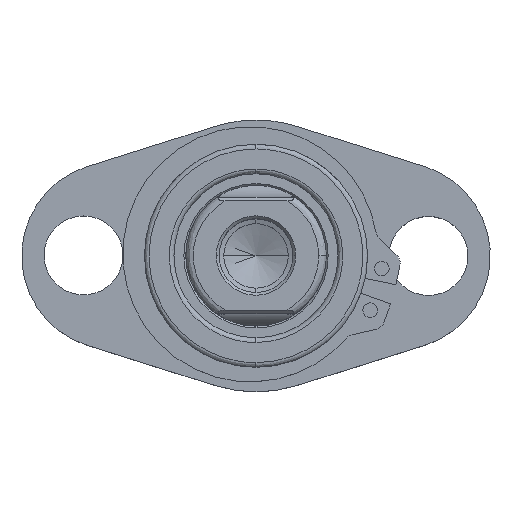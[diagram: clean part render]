
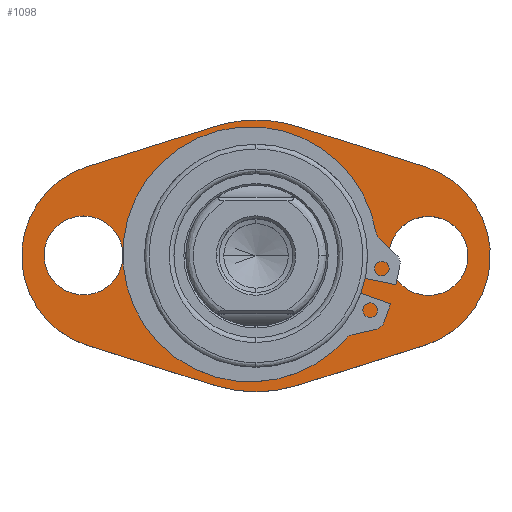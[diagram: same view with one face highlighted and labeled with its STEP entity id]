
A CAD part, top view. The second image highlights one B-rep face of the part: STEP entity #1098.
In plain terms, the highlighted planar face has unit normal (0, 0, 1) as drawn and (0, 1, 0) by its records, which use the part's own axes.
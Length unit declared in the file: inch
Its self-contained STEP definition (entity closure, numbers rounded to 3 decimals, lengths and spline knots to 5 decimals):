
#17 = LINE ( 'NONE', #3147, #4016 ) ;
#185 = CIRCLE ( 'NONE', #3400, 0.5 ) ;
#198 = EDGE_CURVE ( 'NONE', #4698, #1534, #17, .T. ) ;
#205 = AXIS2_PLACEMENT_3D ( 'NONE', #2308, #551, #3860 ) ;
#248 = DIRECTION ( 'NONE',  ( 0., -1., 0. ) ) ;
#290 = DIRECTION ( 'NONE',  ( 0., 0., -1. ) ) ;
#491 = FACE_BOUND ( 'NONE', #2268, .T. ) ;
#504 = DIRECTION ( 'NONE',  ( 0., 0., -1. ) ) ;
#531 = ORIENTED_EDGE ( 'NONE', *, *, #2525, .F. ) ;
#551 = DIRECTION ( 'NONE',  ( 0., -1., 0. ) ) ;
#596 = ORIENTED_EDGE ( 'NONE', *, *, #4167, .T. ) ;
#604 = CARTESIAN_POINT ( 'NONE',  ( 0.92, 0.25, 0.2105 ) ) ;
#608 = EDGE_CURVE ( 'NONE', #2133, #3963, #4390, .T. ) ;
#614 = DIRECTION ( 'NONE',  ( 0., 0., -1. ) ) ;
#627 = ORIENTED_EDGE ( 'NONE', *, *, #198, .T. ) ;
#632 = ORIENTED_EDGE ( 'NONE', *, *, #4266, .T. ) ;
#722 = CARTESIAN_POINT ( 'NONE',  ( -0.9, 0.25, 0.47697 ) ) ;
#771 = FACE_BOUND ( 'NONE', #2446, .T. ) ;
#788 = ORIENTED_EDGE ( 'NONE', *, *, #2374, .T. ) ;
#795 = CIRCLE ( 'NONE', #989, 0.2105 ) ;
#843 = AXIS2_PLACEMENT_3D ( 'NONE', #4478, #1917, #2291 ) ;
#989 = AXIS2_PLACEMENT_3D ( 'NONE', #4601, #2384, #3125 ) ;
#1022 = CARTESIAN_POINT ( 'NONE',  ( -0.75, 0.25, 0. ) ) ;
#1043 = PLANE ( 'NONE',  #1153 ) ;
#1098 = ADVANCED_FACE ( 'NONE', ( #771, #3665, #491, #2575 ), #1043, .F. ) ;
#1150 = CARTESIAN_POINT ( 'NONE',  ( -0.92, 0.25, 0.20747 ) ) ;
#1153 = AXIS2_PLACEMENT_3D ( 'NONE', #4015, #2548, #2856 ) ;
#1158 = CARTESIAN_POINT ( 'NONE',  ( 0., 0.25, 0. ) ) ;
#1190 = CARTESIAN_POINT ( 'NONE',  ( 0., 0.25, -0.725 ) ) ;
#1194 = EDGE_CURVE ( 'NONE', #4161, #2779, #1378, .T. ) ;
#1196 = DIRECTION ( 'NONE',  ( 0., 0., -1. ) ) ;
#1202 = EDGE_LOOP ( 'NONE', ( #1692, #1894, #2985, #627, #531, #2878, #1739, #596, #1617 ) ) ;
#1226 = DIRECTION ( 'NONE',  ( 0., -1., 0. ) ) ;
#1251 = EDGE_CURVE ( 'NONE', #3106, #2779, #1600, .T. ) ;
#1267 = DIRECTION ( 'NONE',  ( 0., 0., -1. ) ) ;
#1343 = VERTEX_POINT ( 'NONE', #2596 ) ;
#1378 = LINE ( 'NONE', #1780, #4707 ) ;
#1407 = CIRCLE ( 'NONE', #4258, 0.725 ) ;
#1489 = DIRECTION ( 'NONE',  ( 0., -1., 0. ) ) ;
#1534 = VERTEX_POINT ( 'NONE', #2006 ) ;
#1545 = DIRECTION ( 'NONE',  ( 0., -1., 0. ) ) ;
#1578 = DIRECTION ( 'NONE',  ( 0., -1., 0. ) ) ;
#1584 = DIRECTION ( 'NONE',  ( 0.954, 0., 0.3 ) ) ;
#1599 = CARTESIAN_POINT ( 'NONE',  ( 0.92, 0.25, -0.2105 ) ) ;
#1600 = CIRCLE ( 'NONE', #2604, 0.725 ) ;
#1607 = CARTESIAN_POINT ( 'NONE',  ( -0.2175, 0.25, -0.69161 ) ) ;
#1617 = ORIENTED_EDGE ( 'NONE', *, *, #4150, .F. ) ;
#1692 = ORIENTED_EDGE ( 'NONE', *, *, #1194, .T. ) ;
#1739 = ORIENTED_EDGE ( 'NONE', *, *, #4094, .F. ) ;
#1770 = AXIS2_PLACEMENT_3D ( 'NONE', #2284, #1545, #1196 ) ;
#1780 = CARTESIAN_POINT ( 'NONE',  ( 0.9, 0.25, -0.47697 ) ) ;
#1809 = EDGE_CURVE ( 'NONE', #4645, #4297, #2633, .T. ) ;
#1886 = CARTESIAN_POINT ( 'NONE',  ( 0.9, 0.25, 0.47697 ) ) ;
#1894 = ORIENTED_EDGE ( 'NONE', *, *, #1251, .F. ) ;
#1907 = DIRECTION ( 'NONE',  ( 0., 0., -1. ) ) ;
#1917 = DIRECTION ( 'NONE',  ( 0., -1., 0. ) ) ;
#1988 = DIRECTION ( 'NONE',  ( 0., 1., 0. ) ) ;
#2006 = CARTESIAN_POINT ( 'NONE',  ( -0.9, 0.25, -0.47697 ) ) ;
#2133 = VERTEX_POINT ( 'NONE', #3715 ) ;
#2151 = ORIENTED_EDGE ( 'NONE', *, *, #1809, .T. ) ;
#2160 = ORIENTED_EDGE ( 'NONE', *, *, #608, .F. ) ;
#2190 = CIRCLE ( 'NONE', #1770, 0.5 ) ;
#2224 = EDGE_CURVE ( 'NONE', #3175, #3768, #3658, .T. ) ;
#2253 = DIRECTION ( 'NONE',  ( 0., 1., 0. ) ) ;
#2268 = EDGE_LOOP ( 'NONE', ( #2151, #632 ) ) ;
#2269 = VERTEX_POINT ( 'NONE', #1886 ) ;
#2284 = CARTESIAN_POINT ( 'NONE',  ( 0.75, 0.25, 0. ) ) ;
#2291 = DIRECTION ( 'NONE',  ( 0., 0., 1. ) ) ;
#2308 = CARTESIAN_POINT ( 'NONE',  ( -0.92, 0.25, -0.00303 ) ) ;
#2374 = EDGE_CURVE ( 'NONE', #3768, #3175, #3246, .T. ) ;
#2384 = DIRECTION ( 'NONE',  ( 0., -1., 0. ) ) ;
#2446 = EDGE_LOOP ( 'NONE', ( #3236, #2160 ) ) ;
#2519 = AXIS2_PLACEMENT_3D ( 'NONE', #3050, #2253, #504 ) ;
#2525 = EDGE_CURVE ( 'NONE', #3063, #1534, #185, .T. ) ;
#2529 = DIRECTION ( 'NONE',  ( -0.954, 0., -0.3 ) ) ;
#2548 = DIRECTION ( 'NONE',  ( 0., -1., 0. ) ) ;
#2575 = FACE_BOUND ( 'NONE', #4071, .T. ) ;
#2596 = CARTESIAN_POINT ( 'NONE',  ( -0.2175, 0.25, 0.69161 ) ) ;
#2601 = VECTOR ( 'NONE', #1584, 39.37008 ) ;
#2604 = AXIS2_PLACEMENT_3D ( 'NONE', #1158, #1489, #2617 ) ;
#2617 = DIRECTION ( 'NONE',  ( 0., 0., -1. ) ) ;
#2633 = CIRCLE ( 'NONE', #4153, 0.2105 ) ;
#2779 = VERTEX_POINT ( 'NONE', #3060 ) ;
#2782 = CIRCLE ( 'NONE', #2519, 0.595 ) ;
#2856 = DIRECTION ( 'NONE',  ( 0., 0., -1. ) ) ;
#2878 = ORIENTED_EDGE ( 'NONE', *, *, #4146, .T. ) ;
#2981 = DIRECTION ( 'NONE',  ( 0., 0., 1. ) ) ;
#2985 = ORIENTED_EDGE ( 'NONE', *, *, #4689, .F. ) ;
#3023 = CARTESIAN_POINT ( 'NONE',  ( 0., 0.25, 0. ) ) ;
#3040 = LINE ( 'NONE', #3771, #2601 ) ;
#3050 = CARTESIAN_POINT ( 'NONE',  ( 0., 0.25, 0. ) ) ;
#3060 = CARTESIAN_POINT ( 'NONE',  ( 0.2175, 0.25, -0.69161 ) ) ;
#3063 = VERTEX_POINT ( 'NONE', #722 ) ;
#3106 = VERTEX_POINT ( 'NONE', #1190 ) ;
#3125 = DIRECTION ( 'NONE',  ( 0., 0., 1. ) ) ;
#3147 = CARTESIAN_POINT ( 'NONE',  ( -0.9, 0.25, -0.47697 ) ) ;
#3175 = VERTEX_POINT ( 'NONE', #1150 ) ;
#3236 = ORIENTED_EDGE ( 'NONE', *, *, #4538, .F. ) ;
#3246 = CIRCLE ( 'NONE', #205, 0.2105 ) ;
#3293 = CARTESIAN_POINT ( 'NONE',  ( 0., 0.25, -0.595 ) ) ;
#3367 = VERTEX_POINT ( 'NONE', #3958 ) ;
#3380 = DIRECTION ( 'NONE',  ( 0.954, 0., -0.3 ) ) ;
#3400 = AXIS2_PLACEMENT_3D ( 'NONE', #1022, #3576, #290 ) ;
#3445 = CARTESIAN_POINT ( 'NONE',  ( 0., 0.25, 0. ) ) ;
#3477 = DIRECTION ( 'NONE',  ( -0.954, 0., 0.3 ) ) ;
#3576 = DIRECTION ( 'NONE',  ( 0., -1., 0. ) ) ;
#3658 = CIRCLE ( 'NONE', #843, 0.2105 ) ;
#3665 = FACE_OUTER_BOUND ( 'NONE', #1202, .T. ) ;
#3715 = CARTESIAN_POINT ( 'NONE',  ( 0., 0.25, 0.595 ) ) ;
#3752 = CARTESIAN_POINT ( 'NONE',  ( 0.9, 0.25, 0.47697 ) ) ;
#3768 = VERTEX_POINT ( 'NONE', #3802 ) ;
#3771 = CARTESIAN_POINT ( 'NONE',  ( -0.9, 0.25, 0.47697 ) ) ;
#3787 = CARTESIAN_POINT ( 'NONE',  ( 0.92, 0.25, 0. ) ) ;
#3802 = CARTESIAN_POINT ( 'NONE',  ( -0.92, 0.25, -0.21353 ) ) ;
#3810 = AXIS2_PLACEMENT_3D ( 'NONE', #3445, #1988, #1267 ) ;
#3830 = CIRCLE ( 'NONE', #4654, 0.725 ) ;
#3860 = DIRECTION ( 'NONE',  ( 0., 0., 1. ) ) ;
#3958 = CARTESIAN_POINT ( 'NONE',  ( 0.2175, 0.25, 0.69161 ) ) ;
#3963 = VERTEX_POINT ( 'NONE', #3293 ) ;
#4015 = CARTESIAN_POINT ( 'NONE',  ( 0.75, 0.25, 0. ) ) ;
#4016 = VECTOR ( 'NONE', #3477, 39.37008 ) ;
#4071 = EDGE_LOOP ( 'NONE', ( #4412, #788 ) ) ;
#4094 = EDGE_CURVE ( 'NONE', #3367, #1343, #1407, .T. ) ;
#4111 = VECTOR ( 'NONE', #3380, 39.37008 ) ;
#4146 = EDGE_CURVE ( 'NONE', #3063, #1343, #3040, .T. ) ;
#4150 = EDGE_CURVE ( 'NONE', #4161, #2269, #2190, .T. ) ;
#4153 = AXIS2_PLACEMENT_3D ( 'NONE', #3787, #1578, #2981 ) ;
#4161 = VERTEX_POINT ( 'NONE', #4486 ) ;
#4167 = EDGE_CURVE ( 'NONE', #3367, #2269, #4452, .T. ) ;
#4258 = AXIS2_PLACEMENT_3D ( 'NONE', #3023, #1226, #1907 ) ;
#4266 = EDGE_CURVE ( 'NONE', #4297, #4645, #795, .T. ) ;
#4297 = VERTEX_POINT ( 'NONE', #1599 ) ;
#4390 = CIRCLE ( 'NONE', #3810, 0.595 ) ;
#4412 = ORIENTED_EDGE ( 'NONE', *, *, #2224, .T. ) ;
#4452 = LINE ( 'NONE', #3752, #4111 ) ;
#4478 = CARTESIAN_POINT ( 'NONE',  ( -0.92, 0.25, -0.00303 ) ) ;
#4486 = CARTESIAN_POINT ( 'NONE',  ( 0.9, 0.25, -0.47697 ) ) ;
#4538 = EDGE_CURVE ( 'NONE', #3963, #2133, #2782, .T. ) ;
#4601 = CARTESIAN_POINT ( 'NONE',  ( 0.92, 0.25, 0. ) ) ;
#4611 = CARTESIAN_POINT ( 'NONE',  ( 0., 0.25, 0. ) ) ;
#4645 = VERTEX_POINT ( 'NONE', #604 ) ;
#4654 = AXIS2_PLACEMENT_3D ( 'NONE', #4611, #248, #614 ) ;
#4689 = EDGE_CURVE ( 'NONE', #4698, #3106, #3830, .T. ) ;
#4698 = VERTEX_POINT ( 'NONE', #1607 ) ;
#4707 = VECTOR ( 'NONE', #2529, 39.37008 ) ;
